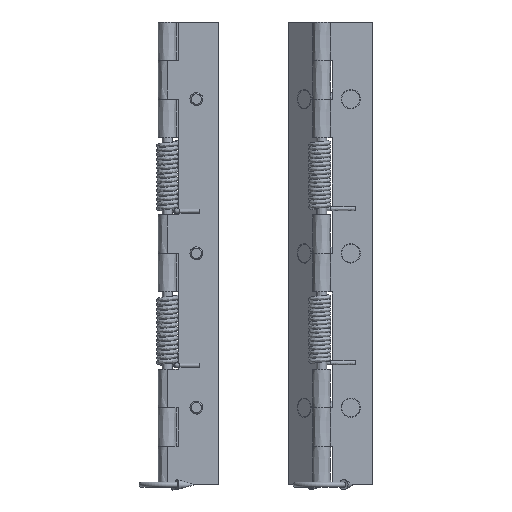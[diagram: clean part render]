
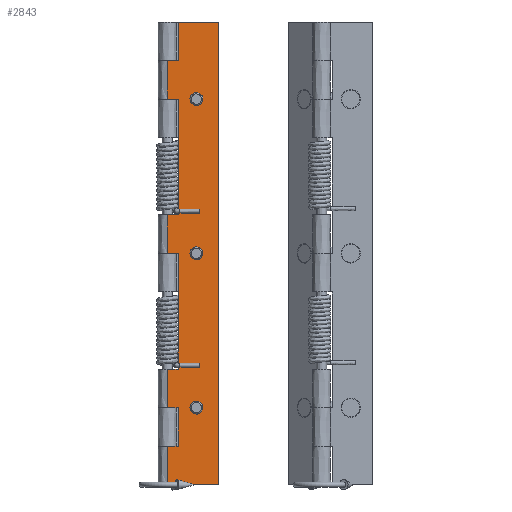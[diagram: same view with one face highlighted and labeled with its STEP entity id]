
A CAD part, top view. The second image highlights one B-rep face of the part: STEP entity #2843.
In plain terms, the highlighted planar face has unit normal (-0.001, 0, 1).
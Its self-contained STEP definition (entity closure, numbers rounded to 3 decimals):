
#33=LINE('',#14881,#281);
#35=LINE('',#14886,#283);
#43=LINE('',#14910,#291);
#45=LINE('',#14915,#293);
#51=LINE('',#14929,#299);
#54=LINE('',#14935,#302);
#58=LINE('',#14948,#306);
#60=LINE('',#14953,#308);
#66=LINE('',#14967,#314);
#70=LINE('',#14980,#318);
#71=LINE('',#14982,#319);
#78=LINE('',#14999,#326);
#79=LINE('',#15007,#327);
#80=LINE('',#15008,#328);
#81=LINE('',#15009,#329);
#82=LINE('',#15010,#330);
#83=LINE('',#15012,#331);
#84=LINE('',#15013,#332);
#281=VECTOR('',#3424,1000.);
#283=VECTOR('',#3428,1000.);
#291=VECTOR('',#3448,1000.);
#293=VECTOR('',#3452,1000.);
#299=VECTOR('',#3466,1000.);
#302=VECTOR('',#3471,1000.);
#306=VECTOR('',#3481,1000.);
#308=VECTOR('',#3485,1000.);
#314=VECTOR('',#3499,1000.);
#318=VECTOR('',#3509,1000.);
#319=VECTOR('',#3512,1000.);
#326=VECTOR('',#3527,1000.);
#327=VECTOR('',#3536,1000.);
#328=VECTOR('',#3537,1000.);
#329=VECTOR('',#3538,1000.);
#330=VECTOR('',#3539,1000.);
#331=VECTOR('',#3540,1000.);
#332=VECTOR('',#3541,1000.);
#837=ORIENTED_EDGE('',*,*,#1566,.T.);
#838=ORIENTED_EDGE('',*,*,#1567,.T.);
#839=ORIENTED_EDGE('',*,*,#1568,.T.);
#840=ORIENTED_EDGE('',*,*,#1530,.F.);
#841=ORIENTED_EDGE('',*,*,#1520,.F.);
#842=ORIENTED_EDGE('',*,*,#1569,.T.);
#843=ORIENTED_EDGE('',*,*,#1522,.T.);
#844=ORIENTED_EDGE('',*,*,#1549,.F.);
#845=ORIENTED_EDGE('',*,*,#1539,.F.);
#846=ORIENTED_EDGE('',*,*,#1570,.T.);
#847=ORIENTED_EDGE('',*,*,#1541,.T.);
#848=ORIENTED_EDGE('',*,*,#1565,.F.);
#849=ORIENTED_EDGE('',*,*,#1555,.F.);
#850=ORIENTED_EDGE('',*,*,#1571,.T.);
#851=ORIENTED_EDGE('',*,*,#1556,.T.);
#852=ORIENTED_EDGE('',*,*,#1572,.T.);
#853=ORIENTED_EDGE('',*,*,#1573,.T.);
#854=ORIENTED_EDGE('',*,*,#1533,.F.);
#855=ORIENTED_EDGE('',*,*,#1506,.F.);
#856=ORIENTED_EDGE('',*,*,#1574,.T.);
#857=ORIENTED_EDGE('',*,*,#1508,.T.);
#1506=EDGE_CURVE('',#1888,#1883,#33,.T.);
#1508=EDGE_CURVE('',#1891,#1890,#35,.T.);
#1520=EDGE_CURVE('',#1900,#1895,#43,.T.);
#1522=EDGE_CURVE('',#1903,#1902,#45,.T.);
#1530=EDGE_CURVE('',#1895,#1890,#51,.T.);
#1533=EDGE_CURVE('',#1883,#1908,#54,.T.);
#1539=EDGE_CURVE('',#1914,#1909,#58,.T.);
#1541=EDGE_CURVE('',#1917,#1916,#60,.T.);
#1549=EDGE_CURVE('',#1909,#1902,#66,.T.);
#1555=EDGE_CURVE('',#1926,#1921,#70,.T.);
#1556=EDGE_CURVE('',#1927,#1928,#71,.T.);
#1565=EDGE_CURVE('',#1921,#1916,#78,.T.);
#1566=EDGE_CURVE('',#1933,#1933,#2165,.T.);
#1567=EDGE_CURVE('',#1934,#1934,#2166,.T.);
#1568=EDGE_CURVE('',#1935,#1935,#2167,.T.);
#1569=EDGE_CURVE('',#1900,#1903,#79,.T.);
#1570=EDGE_CURVE('',#1914,#1917,#80,.T.);
#1571=EDGE_CURVE('',#1926,#1927,#81,.T.);
#1572=EDGE_CURVE('',#1928,#1936,#82,.T.);
#1573=EDGE_CURVE('',#1936,#1908,#83,.T.);
#1574=EDGE_CURVE('',#1888,#1891,#84,.T.);
#1883=VERTEX_POINT('',#14871);
#1888=VERTEX_POINT('',#14880);
#1890=VERTEX_POINT('',#14885);
#1891=VERTEX_POINT('',#14887);
#1895=VERTEX_POINT('',#14900);
#1900=VERTEX_POINT('',#14909);
#1902=VERTEX_POINT('',#14914);
#1903=VERTEX_POINT('',#14916);
#1908=VERTEX_POINT('',#14933);
#1909=VERTEX_POINT('',#14938);
#1914=VERTEX_POINT('',#14947);
#1916=VERTEX_POINT('',#14952);
#1917=VERTEX_POINT('',#14954);
#1921=VERTEX_POINT('',#14970);
#1926=VERTEX_POINT('',#14979);
#1927=VERTEX_POINT('',#14983);
#1928=VERTEX_POINT('',#14984);
#1933=VERTEX_POINT('',#15002);
#1934=VERTEX_POINT('',#15004);
#1935=VERTEX_POINT('',#15006);
#1936=VERTEX_POINT('',#15011);
#2165=CIRCLE('',#3185,2.);
#2166=CIRCLE('',#3186,2.);
#2167=CIRCLE('',#3187,2.);
#2293=EDGE_LOOP('',(#837));
#2294=EDGE_LOOP('',(#838));
#2295=EDGE_LOOP('',(#839));
#2296=EDGE_LOOP('',(#840,#841,#842,#843,#844,#845,#846,#847,#848,#849,#850,
#851,#852,#853,#854,#855,#856,#857));
#2527=FACE_BOUND('',#2293,.T.);
#2528=FACE_BOUND('',#2294,.T.);
#2529=FACE_BOUND('',#2295,.T.);
#2530=FACE_BOUND('',#2296,.T.);
#2739=PLANE('',#3184);
#2843=ADVANCED_FACE('',(#2527,#2528,#2529,#2530),#2739,.T.);
#3184=AXIS2_PLACEMENT_3D('',#15000,#3528,#3529);
#3185=AXIS2_PLACEMENT_3D('',#15001,#3530,#3531);
#3186=AXIS2_PLACEMENT_3D('',#15003,#3532,#3533);
#3187=AXIS2_PLACEMENT_3D('',#15005,#3534,#3535);
#3424=DIRECTION('',(1.,0.,0.001));
#3428=DIRECTION('',(1.,0.,0.001));
#3448=DIRECTION('',(1.,0.,0.001));
#3452=DIRECTION('',(1.,0.,0.001));
#3466=DIRECTION('',(0.,1.,0.));
#3471=DIRECTION('',(0.,1.,0.));
#3481=DIRECTION('',(1.,0.,0.001));
#3485=DIRECTION('',(1.,0.,0.001));
#3499=DIRECTION('',(0.,1.,0.));
#3509=DIRECTION('',(1.,0.,0.001));
#3512=DIRECTION('',(1.,0.,0.001));
#3527=DIRECTION('',(0.,1.,0.));
#3528=DIRECTION('',(-0.001,0.,1.));
#3529=DIRECTION('',(0.,1.,0.));
#3530=DIRECTION('',(0.001,0.,-1.));
#3531=DIRECTION('',(-1.,0.,-0.001));
#3532=DIRECTION('',(0.001,0.,-1.));
#3533=DIRECTION('',(-1.,0.,-0.001));
#3534=DIRECTION('',(0.001,0.,-1.));
#3535=DIRECTION('',(-1.,0.,-0.001));
#3536=DIRECTION('',(0.,-1.,0.));
#3537=DIRECTION('',(0.,-1.,0.));
#3538=DIRECTION('',(0.,-1.,0.));
#3539=DIRECTION('',(0.,1.,0.));
#3540=DIRECTION('',(-1.,0.,-0.001));
#3541=DIRECTION('',(0.,-1.,0.));
#14871=CARTESIAN_POINT('',(-4.003,75.,3.494));
#14880=CARTESIAN_POINT('',(-8.253,75.,3.489));
#14881=CARTESIAN_POINT('',(-8.253,75.,3.489));
#14885=CARTESIAN_POINT('',(-4.003,60.,3.494));
#14886=CARTESIAN_POINT('',(-8.253,60.,3.489));
#14887=CARTESIAN_POINT('',(-8.253,60.,3.489));
#14900=CARTESIAN_POINT('',(-4.003,15.,3.494));
#14909=CARTESIAN_POINT('',(-8.253,15.,3.489));
#14910=CARTESIAN_POINT('',(-8.253,15.,3.489));
#14914=CARTESIAN_POINT('',(-4.003,0.,3.494));
#14915=CARTESIAN_POINT('',(-8.253,0.,3.489));
#14916=CARTESIAN_POINT('',(-8.253,0.,3.489));
#14929=CARTESIAN_POINT('',(-4.003,15.,3.494));
#14933=CARTESIAN_POINT('',(-4.003,90.,3.494));
#14935=CARTESIAN_POINT('',(-4.003,75.,3.494));
#14938=CARTESIAN_POINT('',(-4.003,-45.,3.494));
#14947=CARTESIAN_POINT('',(-8.253,-45.,3.489));
#14948=CARTESIAN_POINT('',(-8.253,-45.,3.489));
#14952=CARTESIAN_POINT('',(-4.003,-60.,3.494));
#14953=CARTESIAN_POINT('',(-8.253,-60.,3.489));
#14954=CARTESIAN_POINT('',(-8.253,-60.,3.489));
#14967=CARTESIAN_POINT('',(-4.003,-45.,3.494));
#14970=CARTESIAN_POINT('',(-4.003,-75.,3.494));
#14979=CARTESIAN_POINT('',(-8.253,-75.,3.489));
#14980=CARTESIAN_POINT('',(-8.253,-75.,3.489));
#14982=CARTESIAN_POINT('',(-8.253,-90.,3.489));
#14983=CARTESIAN_POINT('',(-8.253,-90.,3.489));
#14984=CARTESIAN_POINT('',(11.747,-90.,3.511));
#14999=CARTESIAN_POINT('',(-4.003,-75.,3.494));
#15000=CARTESIAN_POINT('',(-11.753,75.,3.485));
#15001=CARTESIAN_POINT('',(3.097,60.,3.501));
#15002=CARTESIAN_POINT('',(1.097,60.,3.499));
#15003=CARTESIAN_POINT('',(3.097,-60.,3.501));
#15004=CARTESIAN_POINT('',(1.097,-60.,3.499));
#15005=CARTESIAN_POINT('',(3.097,0.,3.501));
#15006=CARTESIAN_POINT('',(1.097,0.,3.499));
#15007=CARTESIAN_POINT('',(-8.253,15.,3.489));
#15008=CARTESIAN_POINT('',(-8.253,-45.,3.489));
#15009=CARTESIAN_POINT('',(-8.253,-75.,3.489));
#15010=CARTESIAN_POINT('',(11.747,-90.,3.511));
#15011=CARTESIAN_POINT('',(11.747,90.,3.511));
#15012=CARTESIAN_POINT('',(11.747,90.,3.511));
#15013=CARTESIAN_POINT('',(-8.253,75.,3.489));
